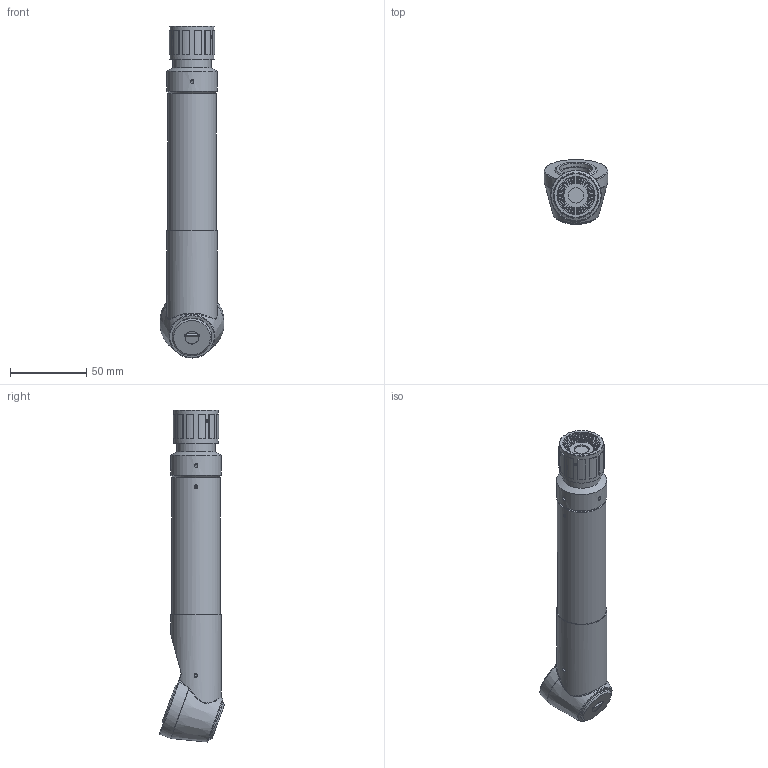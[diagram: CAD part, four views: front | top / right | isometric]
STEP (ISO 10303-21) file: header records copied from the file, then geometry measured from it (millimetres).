
FILE_DESCRIPTION(/* description */ (''),/* implementation_level */ '2;1');
FILE_NAME(/* name */ '\\SERVEUR-09\Entreprise\Bureau-Technique\Produits Web\microscopes\optiques\MA 117SZ-3.stp',/* time_stamp */ '2019-02-18T13:20:29+01:00',/* author */ ('ms'),/* organization */ ('Marcel Aubert'),/* preprocessor_version */ 'ST-DEVELOPER v17.2',/* originating_system */ 'Autodesk Inventor 2019',/* authorisation */ '');
FILE_SCHEMA (('CONFIG_CONTROL_DESIGN'));
Length unit declared in the file: millimetre
Products named in the file (1): Pièce1
Bounding box: 42 x 42.6 x 218.18 mm (x, y, z)
Volume: 107967.6 mm3; surface area: 50754.9 mm2
Topology: 1 solids, 15 shells, 456 faces, 1177 edges, 811 vertices
Faces by surface type: plane 252, cylinder 126, cone 57, bspline 13, torus 5, sphere 3
Full cylindrical faces by diameter (mm): 1.567 x4, 1.75 x1, 2.013 x6, 2.459 x12, 3 x4, 10 x2, 11 x2, 11.5 x1, 12.8 x1, 13 x3, 14 x6, 15 x1, 15.3 x1, 15.5 x1, 16 x1, 16.46 x1, 16.5 x1, 17 x2, 18 x5, 19 x2, 19.188 x1, 19.5 x1, 20 x4, 21 x1, 21.5 x1, 22 x2, 22.4 x2, 23 x1, 24 x2, 24.5 x1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
Entity records: 16492 total; most frequent: CARTESIAN_POINT 4513, DIRECTION 2405, ORIENTED_EDGE 2360, EDGE_CURVE 1180, AXIS2_PLACEMENT_3D 957, VERTEX_POINT 814, EDGE_LOOP 558, LINE 491
